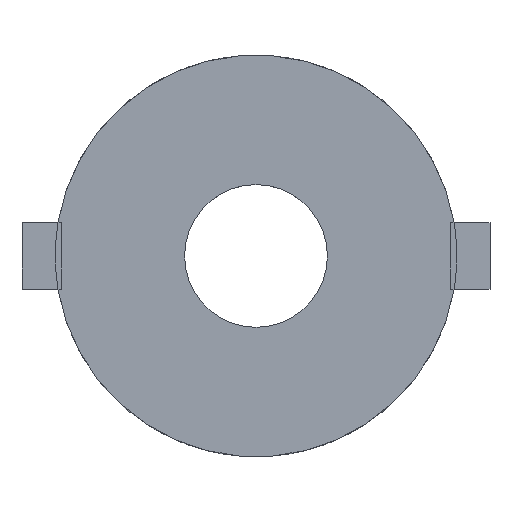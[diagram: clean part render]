
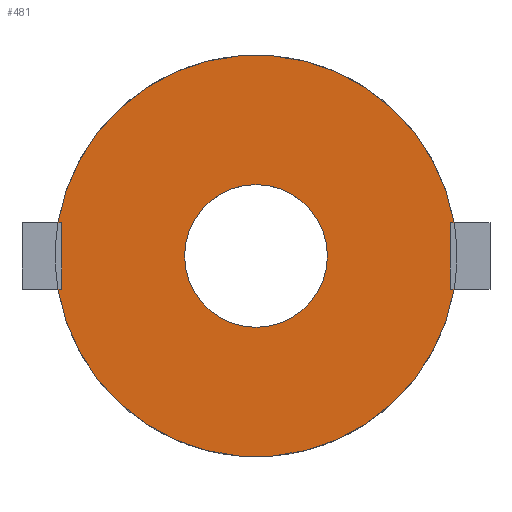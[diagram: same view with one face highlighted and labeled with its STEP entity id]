
A CAD part, top view. The second image highlights one B-rep face of the part: STEP entity #481.
In plain terms, the highlighted planar face has unit normal (0, 0, 1).
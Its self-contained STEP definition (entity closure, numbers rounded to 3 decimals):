
#31 = CYLINDRICAL_SURFACE('',#32,12.1);
#32 = AXIS2_PLACEMENT_3D('',#33,#34,#35);
#33 = CARTESIAN_POINT('',(0.,0.,-6.1));
#34 = DIRECTION('',(0.,0.,1.));
#35 = DIRECTION('',(1.,0.,-0.));
#108 = VERTEX_POINT('',#109);
#109 = CARTESIAN_POINT('',(11.934,-2.,-3.5));
#133 = EDGE_CURVE('',#134,#108,#136,.T.);
#134 = VERTEX_POINT('',#135);
#135 = CARTESIAN_POINT('',(-11.934,-2.,-3.5));
#136 = SURFACE_CURVE('',#137,(#142,#149),.PCURVE_S1.);
#137 = CIRCLE('',#138,12.1);
#138 = AXIS2_PLACEMENT_3D('',#139,#140,#141);
#139 = CARTESIAN_POINT('',(0.,0.,-3.5));
#140 = DIRECTION('',(0.,0.,1.));
#141 = DIRECTION('',(1.,0.,-0.));
#142 = PCURVE('',#31,#143);
#143 = DEFINITIONAL_REPRESENTATION('',(#144),#148);
#144 = LINE('',#145,#146);
#145 = CARTESIAN_POINT('',(0.,2.6));
#146 = VECTOR('',#147,1.);
#147 = DIRECTION('',(1.,0.));
#148 = ( GEOMETRIC_REPRESENTATION_CONTEXT(2) 
PARAMETRIC_REPRESENTATION_CONTEXT() REPRESENTATION_CONTEXT('2D SPACE',''
  ) );
#149 = PCURVE('',#150,#155);
#150 = PLANE('',#151);
#151 = AXIS2_PLACEMENT_3D('',#152,#153,#154);
#152 = CARTESIAN_POINT('',(0.,0.,-3.5));
#153 = DIRECTION('',(0.,0.,1.));
#154 = DIRECTION('',(1.,0.,-0.));
#155 = DEFINITIONAL_REPRESENTATION('',(#156),#160);
#156 = CIRCLE('',#157,12.1);
#157 = AXIS2_PLACEMENT_2D('',#158,#159);
#158 = CARTESIAN_POINT('',(0.,0.));
#159 = DIRECTION('',(1.,0.));
#160 = ( GEOMETRIC_REPRESENTATION_CONTEXT(2) 
PARAMETRIC_REPRESENTATION_CONTEXT() REPRESENTATION_CONTEXT('2D SPACE',''
  ) );
#218 = VERTEX_POINT('',#219);
#219 = CARTESIAN_POINT('',(-11.934,2.,-3.5));
#243 = EDGE_CURVE('',#244,#218,#246,.T.);
#244 = VERTEX_POINT('',#245);
#245 = CARTESIAN_POINT('',(11.934,2.,-3.5));
#246 = SURFACE_CURVE('',#247,(#252,#259),.PCURVE_S1.);
#247 = CIRCLE('',#248,12.1);
#248 = AXIS2_PLACEMENT_3D('',#249,#250,#251);
#249 = CARTESIAN_POINT('',(0.,0.,-3.5));
#250 = DIRECTION('',(0.,0.,1.));
#251 = DIRECTION('',(1.,0.,-0.));
#252 = PCURVE('',#31,#253);
#253 = DEFINITIONAL_REPRESENTATION('',(#254),#258);
#254 = LINE('',#255,#256);
#255 = CARTESIAN_POINT('',(0.,2.6));
#256 = VECTOR('',#257,1.);
#257 = DIRECTION('',(1.,0.));
#258 = ( GEOMETRIC_REPRESENTATION_CONTEXT(2) 
PARAMETRIC_REPRESENTATION_CONTEXT() REPRESENTATION_CONTEXT('2D SPACE',''
  ) );
#259 = PCURVE('',#150,#260);
#260 = DEFINITIONAL_REPRESENTATION('',(#261),#265);
#261 = CIRCLE('',#262,12.1);
#262 = AXIS2_PLACEMENT_2D('',#263,#264);
#263 = CARTESIAN_POINT('',(0.,0.));
#264 = DIRECTION('',(1.,0.));
#265 = ( GEOMETRIC_REPRESENTATION_CONTEXT(2) 
PARAMETRIC_REPRESENTATION_CONTEXT() REPRESENTATION_CONTEXT('2D SPACE',''
  ) );
#481 = ADVANCED_FACE('',(#482,#630),#150,.T.);
#482 = FACE_BOUND('',#483,.T.);
#483 = EDGE_LOOP('',(#484,#512,#513,#541,#564,#585,#586,#609));
#484 = ORIENTED_EDGE('',*,*,#485,.F.);
#485 = EDGE_CURVE('',#134,#486,#488,.T.);
#486 = VERTEX_POINT('',#487);
#487 = CARTESIAN_POINT('',(-11.7,-2.,-3.5));
#488 = SURFACE_CURVE('',#489,(#493,#500),.PCURVE_S1.);
#489 = LINE('',#490,#491);
#490 = CARTESIAN_POINT('',(-14.1,-2.,-3.5));
#491 = VECTOR('',#492,1.);
#492 = DIRECTION('',(1.,0.,0.));
#493 = PCURVE('',#150,#494);
#494 = DEFINITIONAL_REPRESENTATION('',(#495),#499);
#495 = LINE('',#496,#497);
#496 = CARTESIAN_POINT('',(-14.1,-2.));
#497 = VECTOR('',#498,1.);
#498 = DIRECTION('',(1.,0.));
#499 = ( GEOMETRIC_REPRESENTATION_CONTEXT(2) 
PARAMETRIC_REPRESENTATION_CONTEXT() REPRESENTATION_CONTEXT('2D SPACE',''
  ) );
#500 = PCURVE('',#501,#506);
#501 = PLANE('',#502);
#502 = AXIS2_PLACEMENT_3D('',#503,#504,#505);
#503 = CARTESIAN_POINT('',(0.,0.,-3.5));
#504 = DIRECTION('',(0.,0.,1.));
#505 = DIRECTION('',(1.,0.,-0.));
#506 = DEFINITIONAL_REPRESENTATION('',(#507),#511);
#507 = LINE('',#508,#509);
#508 = CARTESIAN_POINT('',(-14.1,-2.));
#509 = VECTOR('',#510,1.);
#510 = DIRECTION('',(1.,0.));
#511 = ( GEOMETRIC_REPRESENTATION_CONTEXT(2) 
PARAMETRIC_REPRESENTATION_CONTEXT() REPRESENTATION_CONTEXT('2D SPACE',''
  ) );
#512 = ORIENTED_EDGE('',*,*,#133,.T.);
#513 = ORIENTED_EDGE('',*,*,#514,.F.);
#514 = EDGE_CURVE('',#515,#108,#517,.T.);
#515 = VERTEX_POINT('',#516);
#516 = CARTESIAN_POINT('',(11.7,-2.,-3.5));
#517 = SURFACE_CURVE('',#518,(#522,#529),.PCURVE_S1.);
#518 = LINE('',#519,#520);
#519 = CARTESIAN_POINT('',(11.7,-2.,-3.5));
#520 = VECTOR('',#521,1.);
#521 = DIRECTION('',(1.,0.,0.));
#522 = PCURVE('',#150,#523);
#523 = DEFINITIONAL_REPRESENTATION('',(#524),#528);
#524 = LINE('',#525,#526);
#525 = CARTESIAN_POINT('',(11.7,-2.));
#526 = VECTOR('',#527,1.);
#527 = DIRECTION('',(1.,0.));
#528 = ( GEOMETRIC_REPRESENTATION_CONTEXT(2) 
PARAMETRIC_REPRESENTATION_CONTEXT() REPRESENTATION_CONTEXT('2D SPACE',''
  ) );
#529 = PCURVE('',#530,#535);
#530 = PLANE('',#531);
#531 = AXIS2_PLACEMENT_3D('',#532,#533,#534);
#532 = CARTESIAN_POINT('',(0.,0.,-3.5));
#533 = DIRECTION('',(0.,0.,1.));
#534 = DIRECTION('',(1.,0.,-0.));
#535 = DEFINITIONAL_REPRESENTATION('',(#536),#540);
#536 = LINE('',#537,#538);
#537 = CARTESIAN_POINT('',(11.7,-2.));
#538 = VECTOR('',#539,1.);
#539 = DIRECTION('',(1.,0.));
#540 = ( GEOMETRIC_REPRESENTATION_CONTEXT(2) 
PARAMETRIC_REPRESENTATION_CONTEXT() REPRESENTATION_CONTEXT('2D SPACE',''
  ) );
#541 = ORIENTED_EDGE('',*,*,#542,.T.);
#542 = EDGE_CURVE('',#515,#543,#545,.T.);
#543 = VERTEX_POINT('',#544);
#544 = CARTESIAN_POINT('',(11.7,2.,-3.5));
#545 = SURFACE_CURVE('',#546,(#550,#557),.PCURVE_S1.);
#546 = LINE('',#547,#548);
#547 = CARTESIAN_POINT('',(11.7,-2.,-3.5));
#548 = VECTOR('',#549,1.);
#549 = DIRECTION('',(0.,1.,0.));
#550 = PCURVE('',#150,#551);
#551 = DEFINITIONAL_REPRESENTATION('',(#552),#556);
#552 = LINE('',#553,#554);
#553 = CARTESIAN_POINT('',(11.7,-2.));
#554 = VECTOR('',#555,1.);
#555 = DIRECTION('',(0.,1.));
#556 = ( GEOMETRIC_REPRESENTATION_CONTEXT(2) 
PARAMETRIC_REPRESENTATION_CONTEXT() REPRESENTATION_CONTEXT('2D SPACE',''
  ) );
#557 = PCURVE('',#530,#558);
#558 = DEFINITIONAL_REPRESENTATION('',(#559),#563);
#559 = LINE('',#560,#561);
#560 = CARTESIAN_POINT('',(11.7,-2.));
#561 = VECTOR('',#562,1.);
#562 = DIRECTION('',(0.,1.));
#563 = ( GEOMETRIC_REPRESENTATION_CONTEXT(2) 
PARAMETRIC_REPRESENTATION_CONTEXT() REPRESENTATION_CONTEXT('2D SPACE',''
  ) );
#564 = ORIENTED_EDGE('',*,*,#565,.T.);
#565 = EDGE_CURVE('',#543,#244,#566,.T.);
#566 = SURFACE_CURVE('',#567,(#571,#578),.PCURVE_S1.);
#567 = LINE('',#568,#569);
#568 = CARTESIAN_POINT('',(11.7,2.,-3.5));
#569 = VECTOR('',#570,1.);
#570 = DIRECTION('',(1.,0.,0.));
#571 = PCURVE('',#150,#572);
#572 = DEFINITIONAL_REPRESENTATION('',(#573),#577);
#573 = LINE('',#574,#575);
#574 = CARTESIAN_POINT('',(11.7,2.));
#575 = VECTOR('',#576,1.);
#576 = DIRECTION('',(1.,0.));
#577 = ( GEOMETRIC_REPRESENTATION_CONTEXT(2) 
PARAMETRIC_REPRESENTATION_CONTEXT() REPRESENTATION_CONTEXT('2D SPACE',''
  ) );
#578 = PCURVE('',#530,#579);
#579 = DEFINITIONAL_REPRESENTATION('',(#580),#584);
#580 = LINE('',#581,#582);
#581 = CARTESIAN_POINT('',(11.7,2.));
#582 = VECTOR('',#583,1.);
#583 = DIRECTION('',(1.,0.));
#584 = ( GEOMETRIC_REPRESENTATION_CONTEXT(2) 
PARAMETRIC_REPRESENTATION_CONTEXT() REPRESENTATION_CONTEXT('2D SPACE',''
  ) );
#585 = ORIENTED_EDGE('',*,*,#243,.T.);
#586 = ORIENTED_EDGE('',*,*,#587,.T.);
#587 = EDGE_CURVE('',#218,#588,#590,.T.);
#588 = VERTEX_POINT('',#589);
#589 = CARTESIAN_POINT('',(-11.7,2.,-3.5));
#590 = SURFACE_CURVE('',#591,(#595,#602),.PCURVE_S1.);
#591 = LINE('',#592,#593);
#592 = CARTESIAN_POINT('',(-14.1,2.,-3.5));
#593 = VECTOR('',#594,1.);
#594 = DIRECTION('',(1.,0.,0.));
#595 = PCURVE('',#150,#596);
#596 = DEFINITIONAL_REPRESENTATION('',(#597),#601);
#597 = LINE('',#598,#599);
#598 = CARTESIAN_POINT('',(-14.1,2.));
#599 = VECTOR('',#600,1.);
#600 = DIRECTION('',(1.,0.));
#601 = ( GEOMETRIC_REPRESENTATION_CONTEXT(2) 
PARAMETRIC_REPRESENTATION_CONTEXT() REPRESENTATION_CONTEXT('2D SPACE',''
  ) );
#602 = PCURVE('',#501,#603);
#603 = DEFINITIONAL_REPRESENTATION('',(#604),#608);
#604 = LINE('',#605,#606);
#605 = CARTESIAN_POINT('',(-14.1,2.));
#606 = VECTOR('',#607,1.);
#607 = DIRECTION('',(1.,0.));
#608 = ( GEOMETRIC_REPRESENTATION_CONTEXT(2) 
PARAMETRIC_REPRESENTATION_CONTEXT() REPRESENTATION_CONTEXT('2D SPACE',''
  ) );
#609 = ORIENTED_EDGE('',*,*,#610,.F.);
#610 = EDGE_CURVE('',#486,#588,#611,.T.);
#611 = SURFACE_CURVE('',#612,(#616,#623),.PCURVE_S1.);
#612 = LINE('',#613,#614);
#613 = CARTESIAN_POINT('',(-11.7,-2.,-3.5));
#614 = VECTOR('',#615,1.);
#615 = DIRECTION('',(0.,1.,0.));
#616 = PCURVE('',#150,#617);
#617 = DEFINITIONAL_REPRESENTATION('',(#618),#622);
#618 = LINE('',#619,#620);
#619 = CARTESIAN_POINT('',(-11.7,-2.));
#620 = VECTOR('',#621,1.);
#621 = DIRECTION('',(0.,1.));
#622 = ( GEOMETRIC_REPRESENTATION_CONTEXT(2) 
PARAMETRIC_REPRESENTATION_CONTEXT() REPRESENTATION_CONTEXT('2D SPACE',''
  ) );
#623 = PCURVE('',#501,#624);
#624 = DEFINITIONAL_REPRESENTATION('',(#625),#629);
#625 = LINE('',#626,#627);
#626 = CARTESIAN_POINT('',(-11.7,-2.));
#627 = VECTOR('',#628,1.);
#628 = DIRECTION('',(0.,1.));
#629 = ( GEOMETRIC_REPRESENTATION_CONTEXT(2) 
PARAMETRIC_REPRESENTATION_CONTEXT() REPRESENTATION_CONTEXT('2D SPACE',''
  ) );
#630 = FACE_BOUND('',#631,.T.);
#631 = EDGE_LOOP('',(#632));
#632 = ORIENTED_EDGE('',*,*,#633,.F.);
#633 = EDGE_CURVE('',#634,#634,#636,.T.);
#634 = VERTEX_POINT('',#635);
#635 = CARTESIAN_POINT('',(4.3,0.,-3.5));
#636 = SURFACE_CURVE('',#637,(#642,#649),.PCURVE_S1.);
#637 = CIRCLE('',#638,4.3);
#638 = AXIS2_PLACEMENT_3D('',#639,#640,#641);
#639 = CARTESIAN_POINT('',(0.,0.,-3.5));
#640 = DIRECTION('',(0.,0.,1.));
#641 = DIRECTION('',(1.,0.,-0.));
#642 = PCURVE('',#150,#643);
#643 = DEFINITIONAL_REPRESENTATION('',(#644),#648);
#644 = CIRCLE('',#645,4.3);
#645 = AXIS2_PLACEMENT_2D('',#646,#647);
#646 = CARTESIAN_POINT('',(0.,0.));
#647 = DIRECTION('',(1.,0.));
#648 = ( GEOMETRIC_REPRESENTATION_CONTEXT(2) 
PARAMETRIC_REPRESENTATION_CONTEXT() REPRESENTATION_CONTEXT('2D SPACE',''
  ) );
#649 = PCURVE('',#650,#655);
#650 = CYLINDRICAL_SURFACE('',#651,4.3);
#651 = AXIS2_PLACEMENT_3D('',#652,#653,#654);
#652 = CARTESIAN_POINT('',(0.,0.,-6.11));
#653 = DIRECTION('',(0.,0.,1.));
#654 = DIRECTION('',(1.,0.,-0.));
#655 = DEFINITIONAL_REPRESENTATION('',(#656),#660);
#656 = LINE('',#657,#658);
#657 = CARTESIAN_POINT('',(0.,2.61));
#658 = VECTOR('',#659,1.);
#659 = DIRECTION('',(1.,0.));
#660 = ( GEOMETRIC_REPRESENTATION_CONTEXT(2) 
PARAMETRIC_REPRESENTATION_CONTEXT() REPRESENTATION_CONTEXT('2D SPACE',''
  ) );
